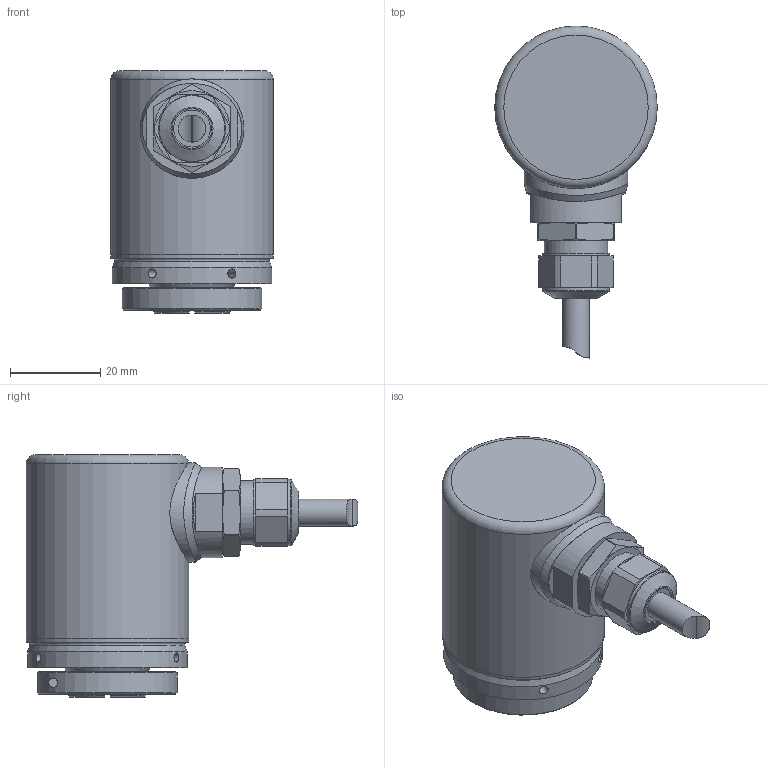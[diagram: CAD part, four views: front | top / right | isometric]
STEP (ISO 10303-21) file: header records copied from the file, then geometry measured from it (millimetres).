
FILE_DESCRIPTION( ( 'Unknown' ), '1' );
FILE_NAME( 'Z:/PJ-RD-MC/10601626_MAGRES_4/20__Produktmanagement/Datenblatt/Vereinfachte Modelle und DAB-Zeichnungen/November 2016/36/Hohlwelle/EAM360-BNF.xLxx.xxxxx.A.stp', 'Unknown', ( 'Unknown' ), ( 'Unknown' ), 'PSStep 15.0.49', 'Unknown', ' ' );
FILE_SCHEMA( ( 'AUTOMOTIVE_DESIGN { 1 0 10303 214 1 1 1 1 }' ) );
Length unit declared in the file: millimetre
Products named in the file (13): 36 H BoMo 15 vereinfacht; 11158184_vereinfacht; 126053; 11158187 vereinfacht; 11115507; Kabelabgang; 11159953_vereinfacht; 11159955_vereinfacht; 11106443; Kabel; 6Kant Mutter M14; Assem1; 11161012_vereinfacht
Assembly tree (12 placements, depth 3):
  Assem1
    11161012_vereinfacht
    Kabelabgang
      11159953_vereinfacht
      11159955_vereinfacht
      11106443
      Kabel
      6Kant Mutter M14
    36 H BoMo 15 vereinfacht
      11158184_vereinfacht
      126053
      11158187 vereinfacht
      11115507
Bounding box: 36 x 73.5 x 53.7 mm (x, y, z)
Surface area: 22652.4 mm2 (no closed solid volume)
Topology: 0 solids, 180 shells, 180 faces, 794 edges, 745 vertices
Faces by surface type: plane 86, cylinder 59, cone 21, torus 11, extrusion 2, bspline 1
Full cylindrical faces by diameter (mm): 2.013 x9, 2.5 x1, 2.6 x1, 4.5 x1, 6 x1, 8.2 x1, 13.35 x2, 14 x2, 14.8 x2, 15 x1, 15.4 x1, 16.5 x1, 19 x2, 34.4 x2, 35.3 x1, 36 x2
Entity records: 10666 total; most frequent: CARTESIAN_POINT 3256, DIRECTION 1296, ORIENTED_EDGE 722, EDGE_CURVE 722, VERTEX_POINT 722, AXIS2_PLACEMENT_3D 492, VECTOR 312, LINE 310
